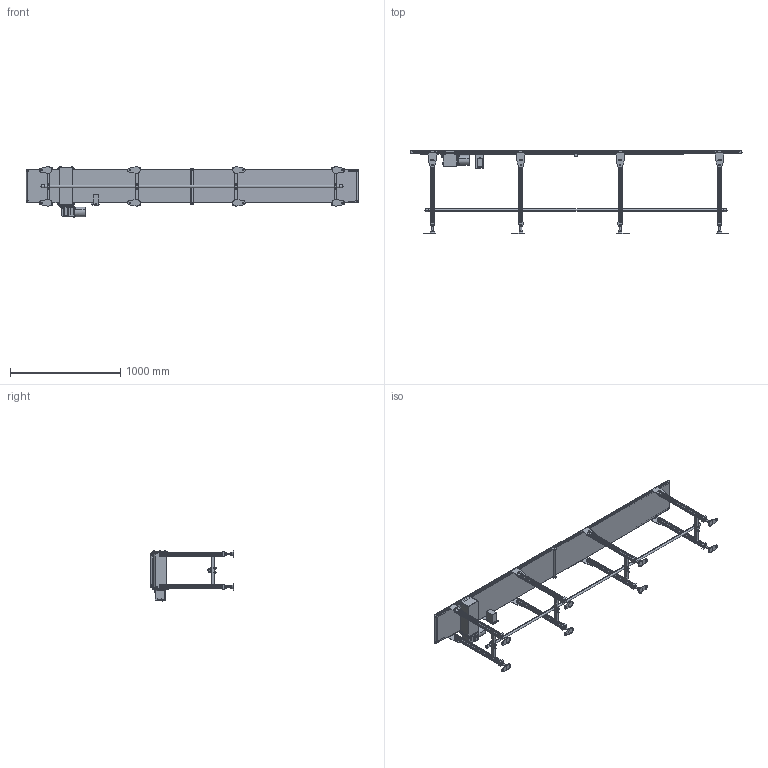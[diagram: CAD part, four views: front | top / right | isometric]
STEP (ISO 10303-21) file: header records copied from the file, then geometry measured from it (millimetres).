
FILE_DESCRIPTION( (''), '2;1');
FILE_NAME ('MFB-SDH-306-300-300-K-180-O.stp','2025-02-17T13:29:54',(''),(''),'spGate 20.6.2 (****-****-****-****)','','');
FILE_SCHEMA (('AUTOMOTIVE_DESIGN'));
Length unit declared in the file: millimetre
Products named in the file (74): NewModel; MFB-SDH-300-3000; TEMP_X_T-prt0; TEMP_X_T-prt1; TEMP_X_T-prt2; TEMP_X_T-prt3; TEMP_X_T-prt4; TEMP_X_T-prt5; TEMP_X_T-prt6; TEMP_X_T-prt7; TEMP_X_T-prt8; TEMP_X_T-prt9; TEMP_X_T-prt10; TEMP_X_T-prt11; TEMP_X_T-prt12; TEMP_X_T-prt13; TEMP_X_T-prt14; TEMP_X_T-prt15; TEMP_X_T-prt16; TEMP_X_T-prt17; TEMP_X_T-prt18; TEMP_X_T-prt19; TEMP_X_T-prt20; TEMP_X_T-prt21; TEMP_X_T-prt22; TEMP_X_T-prt23; TEMP_X_T-prt24; TEMP_X_T-prt25; TEMP_X_T-prt26; TEMP_X_T-prt27; TEMP_X_T-prt28; TEMP_X_T-prt29; TEMP_X_T-prt30; TEMP_X_T-prt31; TEMP_X_T-prt32; TEMP_X_T-prt33; TEMP_X_T-prt34; TEMP_X_T-prt35; TEMP_X_T-prt36; TEMP_X_T-prt37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
Assembly tree (73 placements, depth 3):
  NewModel
    MFB-SDH-300-3000
      TEMP_X_T-prt0
      TEMP_X_T-prt1
      TEMP_X_T-prt2
      TEMP_X_T-prt3
      TEMP_X_T-prt4
      TEMP_X_T-prt5
      TEMP_X_T-prt6
      TEMP_X_T-prt7
      TEMP_X_T-prt8
      TEMP_X_T-prt9
      TEMP_X_T-prt10
      TEMP_X_T-prt11
      TEMP_X_T-prt12
      TEMP_X_T-prt13
      TEMP_X_T-prt14
      TEMP_X_T-prt15
      TEMP_X_T-prt16
      TEMP_X_T-prt17
      TEMP_X_T-prt18
      TEMP_X_T-prt19
      TEMP_X_T-prt20
      TEMP_X_T-prt21
      TEMP_X_T-prt22
      TEMP_X_T-prt23
      TEMP_X_T-prt24
      TEMP_X_T-prt25
      TEMP_X_T-prt26
      TEMP_X_T-prt27
      TEMP_X_T-prt28
      TEMP_X_T-prt29
      TEMP_X_T-prt30
      TEMP_X_T-prt31
      TEMP_X_T-prt32
      TEMP_X_T-prt33
      TEMP_X_T-prt34
      TEMP_X_T-prt35
      TEMP_X_T-prt36
      TEMP_X_T-prt37
      TEMP_X_T-prt38
      TEMP_X_T-prt39
      TEMP_X_T-prt40
      TEMP_X_T-prt41
      TEMP_X_T-prt42
      TEMP_X_T-prt43
      TEMP_X_T-prt44
      TEMP_X_T-prt45
      TEMP_X_T-prt46
      TEMP_X_T-prt47
      TEMP_X_T-prt48
      TEMP_X_T-prt49
      TEMP_X_T-prt50
      TEMP_X_T-prt51
      TEMP_X_T-prt52
      TEMP_X_T-prt53
      TEMP_X_T-prt54
      TEMP_X_T-prt55
      TEMP_X_T-prt56
      TEMP_X_T-prt57
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Bounding box: 3005.2 x 752.6 x 457.86 mm (x, y, z)
Volume: 18787894 mm3; surface area: 8244683.7 mm2
Topology: 72 solids, 72 shells, 3084 faces, 7728 edges, 4972 vertices
Faces by surface type: plane 2330, cylinder 589, bspline 157, sphere 8
Entity records: 157048 total; most frequent: CARTESIAN_POINT 19054, ORIENTED_EDGE 15432, DIRECTION 14696, COLOUR_RGB 10872, PRESENTATION_STYLE_ASSIGNMENT 10872, STYLED_ITEM 10872, EDGE_CURVE 7716, DRAUGHTING_PRE_DEFINED_CURVE_FONT 7716
